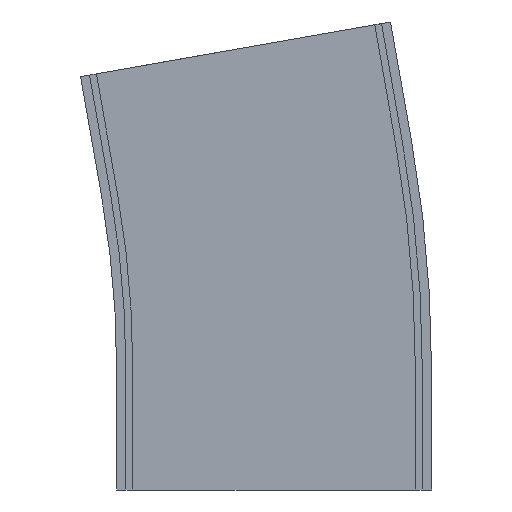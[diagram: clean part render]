
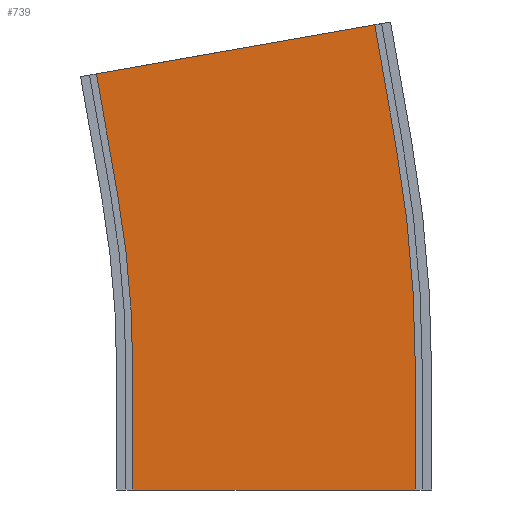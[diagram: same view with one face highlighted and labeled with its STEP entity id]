
A CAD part, left-side view. The second image highlights one B-rep face of the part: STEP entity #739.
In plain terms, the highlighted planar face has unit normal (-1, 0, 0).
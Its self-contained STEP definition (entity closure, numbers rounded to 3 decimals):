
#2 = CARTESIAN_POINT ( 'NONE',  ( -249.5, -52.723, 149.96 ) ) ;
#6 = CARTESIAN_POINT ( 'NONE',  ( -249.5, -43.607, 201.662 ) ) ;
#9 = CARTESIAN_POINT ( 'NONE',  ( -249.5, -61.25, 52.5 ) ) ;
#36 = VERTEX_POINT ( 'NONE', #9 ) ;
#45 = DIRECTION ( 'NONE',  ( 0., 0., -1. ) ) ;
#59 = DIRECTION ( 'NONE',  ( 0., -1., 0. ) ) ;
#63 = EDGE_CURVE ( 'NONE', #79, #1269, #355, .T. ) ;
#79 = VERTEX_POINT ( 'NONE', #1193 ) ;
#96 = ORIENTED_EDGE ( 'NONE', *, *, #314, .T. ) ;
#105 = EDGE_CURVE ( 'NONE', #1025, #1308, #647, .T. ) ;
#128 = EDGE_CURVE ( 'NONE', #36, #871, #896, .T. ) ;
#156 = CIRCLE ( 'NONE', #1154, 438.75 ) ;
#163 = VECTOR ( 'NONE', #1101, 1000. ) ;
#165 = ORIENTED_EDGE ( 'NONE', *, *, #461, .F. ) ;
#195 = DIRECTION ( 'NONE',  ( -1., 0., 0. ) ) ;
#219 = AXIS2_PLACEMENT_3D ( 'NONE', #515, #1359, #629 ) ;
#226 = EDGE_CURVE ( 'NONE', #853, #871, #578, .T. ) ;
#230 = CARTESIAN_POINT ( 'NONE',  ( -249.5, 500., 52.5 ) ) ;
#238 = ORIENTED_EDGE ( 'NONE', *, *, #226, .T. ) ;
#249 = DIRECTION ( 'NONE',  ( 0., 0.174, 0.985 ) ) ;
#264 = CARTESIAN_POINT ( 'NONE',  ( -249.5, 61.25, 0. ) ) ;
#314 = EDGE_CURVE ( 'NONE', #36, #79, #419, .T. ) ;
#321 = VECTOR ( 'NONE', #703, 1000. ) ;
#355 = LINE ( 'NONE', #2, #1350 ) ;
#364 = CARTESIAN_POINT ( 'NONE',  ( -249.5, 61.25, 52.5 ) ) ;
#371 = CARTESIAN_POINT ( 'NONE',  ( -249.5, -61.25, 52.5 ) ) ;
#374 = FACE_OUTER_BOUND ( 'NONE', #509, .T. ) ;
#403 = PLANE ( 'NONE',  #219 ) ;
#419 = CIRCLE ( 'NONE', #1087, 561.25 ) ;
#461 = EDGE_CURVE ( 'NONE', #1308, #1269, #646, .T. ) ;
#509 = EDGE_LOOP ( 'NONE', ( #238, #939, #96, #785, #165, #1182, #602, #1344 ) ) ;
#514 = CARTESIAN_POINT ( 'NONE',  ( -249.5, -43.607, 201.662 ) ) ;
#515 = CARTESIAN_POINT ( 'NONE',  ( -249.5, -61.25, 52.5 ) ) ;
#537 = DIRECTION ( 'NONE',  ( 0., 0., 1. ) ) ;
#555 = VECTOR ( 'NONE', #45, 1000. ) ;
#578 = LINE ( 'NONE', #1250, #877 ) ;
#602 = ORIENTED_EDGE ( 'NONE', *, *, #823, .F. ) ;
#611 = CARTESIAN_POINT ( 'NONE',  ( -249.5, 61.25, 52.5 ) ) ;
#629 = DIRECTION ( 'NONE',  ( 0., 1., 0. ) ) ;
#646 = LINE ( 'NONE', #514, #1031 ) ;
#647 = LINE ( 'NONE', #1097, #163 ) ;
#648 = CARTESIAN_POINT ( 'NONE',  ( -249.5, 500., 52.5 ) ) ;
#703 = DIRECTION ( 'NONE',  ( 0., 0., -1. ) ) ;
#739 = ADVANCED_FACE ( 'NONE', ( #374 ), #403, .F. ) ;
#785 = ORIENTED_EDGE ( 'NONE', *, *, #63, .T. ) ;
#823 = EDGE_CURVE ( 'NONE', #1008, #1025, #156, .T. ) ;
#853 = VERTEX_POINT ( 'NONE', #264 ) ;
#871 = VERTEX_POINT ( 'NONE', #1132 ) ;
#877 = VECTOR ( 'NONE', #59, 1000. ) ;
#892 = EDGE_CURVE ( 'NONE', #1008, #853, #1364, .T. ) ;
#896 = LINE ( 'NONE', #371, #321 ) ;
#939 = ORIENTED_EDGE ( 'NONE', *, *, #128, .F. ) ;
#962 = CARTESIAN_POINT ( 'NONE',  ( -249.5, 77.032, 180.391 ) ) ;
#1008 = VERTEX_POINT ( 'NONE', #364 ) ;
#1025 = VERTEX_POINT ( 'NONE', #1301 ) ;
#1031 = VECTOR ( 'NONE', #1342, 1000. ) ;
#1087 = AXIS2_PLACEMENT_3D ( 'NONE', #230, #195, #537 ) ;
#1097 = CARTESIAN_POINT ( 'NONE',  ( -249.5, 67.916, 128.688 ) ) ;
#1101 = DIRECTION ( 'NONE',  ( 0., 0.174, 0.985 ) ) ;
#1132 = CARTESIAN_POINT ( 'NONE',  ( -249.5, -61.25, 0. ) ) ;
#1154 = AXIS2_PLACEMENT_3D ( 'NONE', #648, #1383, #1377 ) ;
#1182 = ORIENTED_EDGE ( 'NONE', *, *, #105, .F. ) ;
#1193 = CARTESIAN_POINT ( 'NONE',  ( -249.5, -52.723, 149.96 ) ) ;
#1250 = CARTESIAN_POINT ( 'NONE',  ( -249.5, -61.25, 0. ) ) ;
#1269 = VERTEX_POINT ( 'NONE', #6 ) ;
#1301 = CARTESIAN_POINT ( 'NONE',  ( -249.5, 67.916, 128.688 ) ) ;
#1308 = VERTEX_POINT ( 'NONE', #962 ) ;
#1342 = DIRECTION ( 'NONE',  ( 0., -0.985, 0.174 ) ) ;
#1344 = ORIENTED_EDGE ( 'NONE', *, *, #892, .T. ) ;
#1350 = VECTOR ( 'NONE', #249, 1000. ) ;
#1359 = DIRECTION ( 'NONE',  ( 1., 0., 0. ) ) ;
#1364 = LINE ( 'NONE', #611, #555 ) ;
#1377 = DIRECTION ( 'NONE',  ( 0., 0., 1. ) ) ;
#1383 = DIRECTION ( 'NONE',  ( -1., 0., 0. ) ) ;
